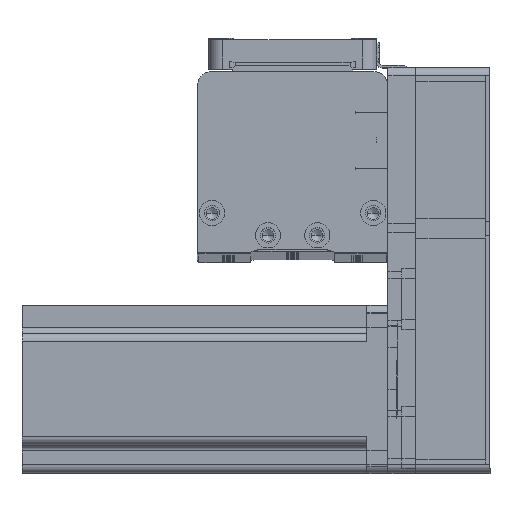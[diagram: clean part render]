
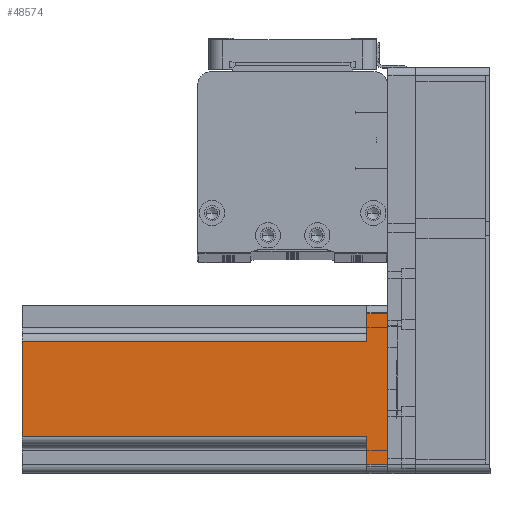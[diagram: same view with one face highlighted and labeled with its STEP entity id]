
A CAD part, top view. The second image highlights one B-rep face of the part: STEP entity #48574.
In plain terms, the highlighted planar face has unit normal (0, 0, 1) as drawn and (0, 1, 0) by its records, which use the part's own axes.
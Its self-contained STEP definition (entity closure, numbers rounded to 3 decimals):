
#1371 = ORIENTED_EDGE ( 'NONE', *, *, #8438, .T. ) ;
#2850 = ORIENTED_EDGE ( 'NONE', *, *, #12787, .T. ) ;
#3018 = CARTESIAN_POINT ( 'NONE',  ( 27., 30., 7.5 ) ) ;
#3230 = LINE ( 'NONE', #37022, #46840 ) ;
#4587 = CARTESIAN_POINT ( 'NONE',  ( 17., 30., 130.7 ) ) ;
#4851 = DIRECTION ( 'NONE',  ( 0., -1., 0. ) ) ;
#5093 = EDGE_CURVE ( 'NONE', #47711, #54058, #3230, .T. ) ;
#5384 = LINE ( 'NONE', #17718, #47625 ) ;
#6078 = CARTESIAN_POINT ( 'NONE',  ( -27., 30., 7.5 ) ) ;
#7562 = DIRECTION ( 'NONE',  ( 0., 0., 1. ) ) ;
#8438 = EDGE_CURVE ( 'NONE', #12711, #47711, #32369, .T. ) ;
#9554 = ORIENTED_EDGE ( 'NONE', *, *, #17635, .F. ) ;
#9581 = CARTESIAN_POINT ( 'NONE',  ( 27., 30., 0. ) ) ;
#11603 = EDGE_LOOP ( 'NONE', ( #48692, #14458, #35508, #42265, #9554, #2850, #1371, #25159 ) ) ;
#12711 = VERTEX_POINT ( 'NONE', #9581 ) ;
#12787 = EDGE_CURVE ( 'NONE', #39797, #12711, #27697, .T. ) ;
#13276 = VECTOR ( 'NONE', #26907, 1000. ) ;
#14458 = ORIENTED_EDGE ( 'NONE', *, *, #40130, .T. ) ;
#15906 = VECTOR ( 'NONE', #19645, 1000. ) ;
#16620 = CARTESIAN_POINT ( 'NONE',  ( 30., 30., 130.7 ) ) ;
#17635 = EDGE_CURVE ( 'NONE', #39797, #43407, #28320, .T. ) ;
#17718 = CARTESIAN_POINT ( 'NONE',  ( -20., 30., 7.5 ) ) ;
#17766 = CARTESIAN_POINT ( 'NONE',  ( -17., 30., 130.7 ) ) ;
#19645 = DIRECTION ( 'NONE',  ( -1., 0., 0. ) ) ;
#20582 = LINE ( 'NONE', #16620, #52973 ) ;
#20842 = CARTESIAN_POINT ( 'NONE',  ( -17., 30., 130.7 ) ) ;
#20882 = CARTESIAN_POINT ( 'NONE',  ( -17., 30., 7.5 ) ) ;
#21247 = FACE_OUTER_BOUND ( 'NONE', #11603, .T. ) ;
#21835 = DIRECTION ( 'NONE',  ( 0., 0., 1. ) ) ;
#21963 = DIRECTION ( 'NONE',  ( 1., 0., 0. ) ) ;
#22115 = VERTEX_POINT ( 'NONE', #34341 ) ;
#24515 = DIRECTION ( 'NONE',  ( -1., 0., 0. ) ) ;
#25159 = ORIENTED_EDGE ( 'NONE', *, *, #5093, .T. ) ;
#26907 = DIRECTION ( 'NONE',  ( 0., 0., -1. ) ) ;
#27697 = LINE ( 'NONE', #31113, #13276 ) ;
#28320 = LINE ( 'NONE', #45445, #39531 ) ;
#28816 = LINE ( 'NONE', #4587, #38698 ) ;
#30106 = CARTESIAN_POINT ( 'NONE',  ( 30., 30., 130.7 ) ) ;
#31113 = CARTESIAN_POINT ( 'NONE',  ( 27., 30., 130.7 ) ) ;
#32369 = LINE ( 'NONE', #36392, #15906 ) ;
#32584 = CARTESIAN_POINT ( 'NONE',  ( -27., 30., 0. ) ) ;
#32742 = VECTOR ( 'NONE', #21835, 1000. ) ;
#34336 = DIRECTION ( 'NONE',  ( 1., 0., 0. ) ) ;
#34341 = CARTESIAN_POINT ( 'NONE',  ( 17., 30., 130.7 ) ) ;
#35508 = ORIENTED_EDGE ( 'NONE', *, *, #42118, .F. ) ;
#36392 = CARTESIAN_POINT ( 'NONE',  ( 30., 30., 0. ) ) ;
#36843 = VERTEX_POINT ( 'NONE', #20842 ) ;
#37022 = CARTESIAN_POINT ( 'NONE',  ( -27., 30., 130.7 ) ) ;
#38397 = PLANE ( 'NONE',  #45430 ) ;
#38698 = VECTOR ( 'NONE', #46851, 1000. ) ;
#39291 = VERTEX_POINT ( 'NONE', #20882 ) ;
#39531 = VECTOR ( 'NONE', #53640, 1000. ) ;
#39797 = VERTEX_POINT ( 'NONE', #3018 ) ;
#40130 = EDGE_CURVE ( 'NONE', #39291, #36843, #45325, .T. ) ;
#41989 = CARTESIAN_POINT ( 'NONE',  ( 17., 30., 7.5 ) ) ;
#42118 = EDGE_CURVE ( 'NONE', #22115, #36843, #20582, .T. ) ;
#42164 = EDGE_CURVE ( 'NONE', #54058, #39291, #5384, .T. ) ;
#42265 = ORIENTED_EDGE ( 'NONE', *, *, #44539, .T. ) ;
#43407 = VERTEX_POINT ( 'NONE', #41989 ) ;
#44539 = EDGE_CURVE ( 'NONE', #22115, #43407, #28816, .T. ) ;
#45325 = LINE ( 'NONE', #17766, #32742 ) ;
#45430 = AXIS2_PLACEMENT_3D ( 'NONE', #30106, #4851, #34336 ) ;
#45445 = CARTESIAN_POINT ( 'NONE',  ( 20., 30., 7.5 ) ) ;
#46840 = VECTOR ( 'NONE', #7562, 1000. ) ;
#46851 = DIRECTION ( 'NONE',  ( 0., 0., -1. ) ) ;
#47625 = VECTOR ( 'NONE', #21963, 1000. ) ;
#47711 = VERTEX_POINT ( 'NONE', #32584 ) ;
#48574 = ADVANCED_FACE ( 'NONE', ( #21247 ), #38397, .F. ) ;
#48692 = ORIENTED_EDGE ( 'NONE', *, *, #42164, .T. ) ;
#52973 = VECTOR ( 'NONE', #24515, 1000. ) ;
#53640 = DIRECTION ( 'NONE',  ( -1., 0., 0. ) ) ;
#54058 = VERTEX_POINT ( 'NONE', #6078 ) ;
